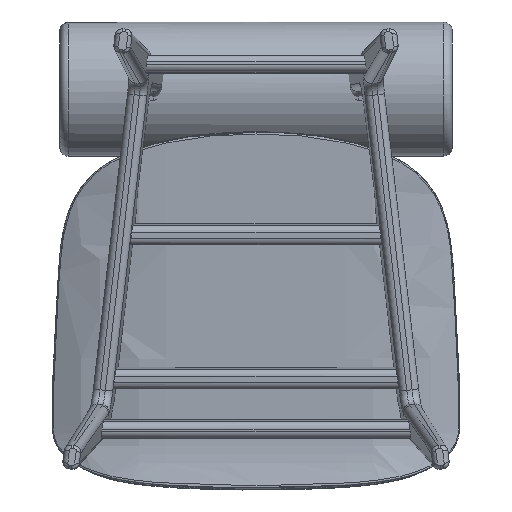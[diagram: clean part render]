
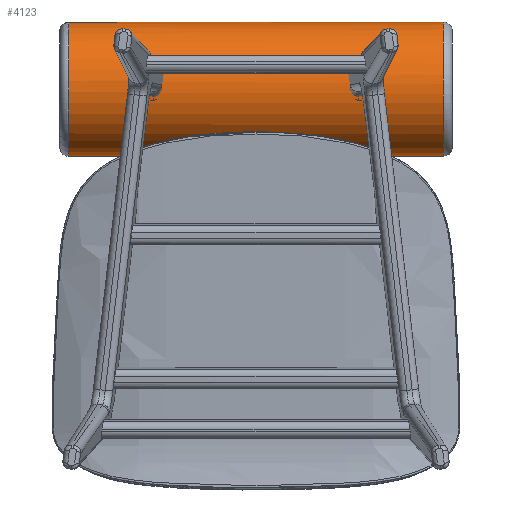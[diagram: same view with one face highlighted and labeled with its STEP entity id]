
A CAD part, front view. The second image highlights one B-rep face of the part: STEP entity #4123.
In plain terms, the highlighted cylindrical face has radius 75.5 mm (diameter 151 mm), a full revolution.
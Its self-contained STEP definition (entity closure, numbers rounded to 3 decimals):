
#199=CIRCLE('',#4582,75.5);
#200=CIRCLE('',#4583,75.5);
#201=CIRCLE('',#4585,75.5);
#202=CIRCLE('',#4586,75.5);
#295=CYLINDRICAL_SURFACE('',#4584,75.5);
#519=FACE_OUTER_BOUND('',#740,.T.);
#740=EDGE_LOOP('',(#3378,#3379,#3380,#3381,#3382,#3383));
#1228=LINE('',#9550,#1419);
#1419=VECTOR('',#5551,75.5);
#1719=VERTEX_POINT('',#9543);
#1720=VERTEX_POINT('',#9545);
#1721=VERTEX_POINT('',#9549);
#1722=VERTEX_POINT('',#9551);
#2302=EDGE_CURVE('',#1719,#1720,#199,.T.);
#2303=EDGE_CURVE('',#1720,#1719,#200,.T.);
#2304=EDGE_CURVE('',#1720,#1721,#1228,.T.);
#2305=EDGE_CURVE('',#1722,#1721,#201,.T.);
#2306=EDGE_CURVE('',#1721,#1722,#202,.T.);
#3378=ORIENTED_EDGE('',*,*,#2303,.F.);
#3379=ORIENTED_EDGE('',*,*,#2304,.T.);
#3380=ORIENTED_EDGE('',*,*,#2305,.F.);
#3381=ORIENTED_EDGE('',*,*,#2306,.F.);
#3382=ORIENTED_EDGE('',*,*,#2304,.F.);
#3383=ORIENTED_EDGE('',*,*,#2302,.F.);
#4123=ADVANCED_FACE('',(#519),#295,.T.);
#4582=AXIS2_PLACEMENT_3D('',#9546,#5545,#5546);
#4583=AXIS2_PLACEMENT_3D('',#9547,#5547,#5548);
#4584=AXIS2_PLACEMENT_3D('',#9548,#5549,#5550);
#4585=AXIS2_PLACEMENT_3D('',#9552,#5552,#5553);
#4586=AXIS2_PLACEMENT_3D('',#9553,#5554,#5555);
#5545=DIRECTION('center_axis',(-1.,0.,0.));
#5546=DIRECTION('ref_axis',(0.,-0.977,-0.214));
#5547=DIRECTION('center_axis',(-1.,0.,0.));
#5548=DIRECTION('ref_axis',(0.,-0.977,-0.214));
#5549=DIRECTION('center_axis',(-1.,0.,0.));
#5550=DIRECTION('ref_axis',(0.,0.977,0.214));
#5551=DIRECTION('',(1.,0.,0.));
#5552=DIRECTION('center_axis',(1.,0.,0.));
#5553=DIRECTION('ref_axis',(0.,-0.977,-0.214));
#5554=DIRECTION('center_axis',(1.,0.,0.));
#5555=DIRECTION('ref_axis',(0.,-0.977,-0.214));
#9543=CARTESIAN_POINT('',(-211.,67.127,232.942));
#9545=CARTESIAN_POINT('',(-211.,-80.378,232.942));
#9546=CARTESIAN_POINT('Origin',(-211.,-6.625,249.092));
#9547=CARTESIAN_POINT('Origin',(-211.,-6.625,249.092));
#9548=CARTESIAN_POINT('Origin',(0.,-6.625,
249.092));
#9549=CARTESIAN_POINT('',(211.,-80.378,232.942));
#9550=CARTESIAN_POINT('',(0.,-80.378,232.942));
#9551=CARTESIAN_POINT('',(211.,-80.378,265.243));
#9552=CARTESIAN_POINT('Origin',(211.,-6.625,249.092));
#9553=CARTESIAN_POINT('Origin',(211.,-6.625,249.092));
